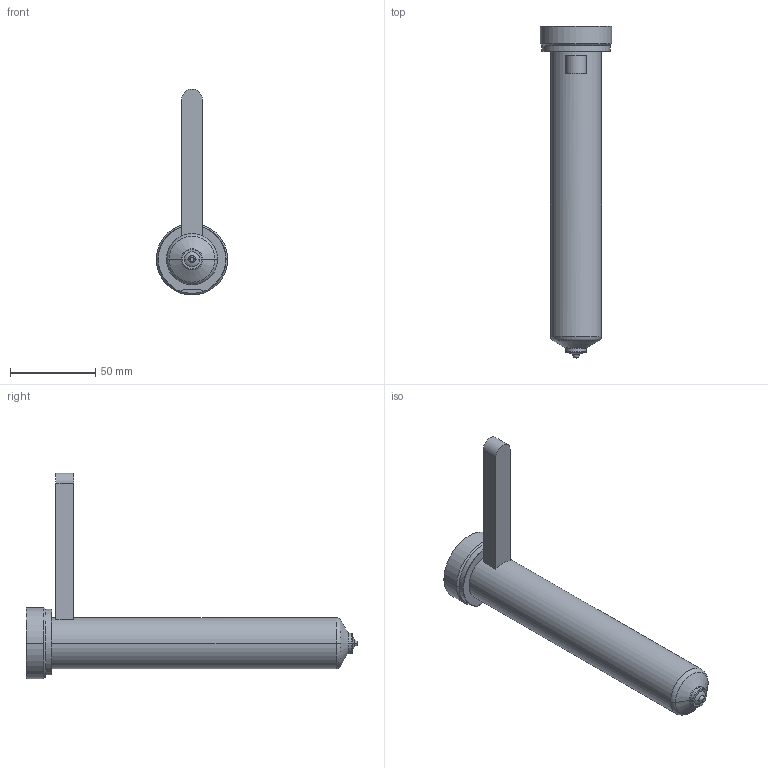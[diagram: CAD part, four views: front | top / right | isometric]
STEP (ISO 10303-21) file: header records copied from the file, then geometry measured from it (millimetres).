
FILE_DESCRIPTION((''),'2;1');
FILE_NAME('EO08_VG-BL_STD_180_COT','2024-02-19T13:06:07',('sundharh'),(''),'CREO PARAMETRIC BY PTC INC, 2023154','CREO PARAMETRIC BY PTC INC, 2023154','');
FILE_SCHEMA(('CONFIG_CONTROL_DESIGN'));
Length unit declared in the file: millimetre
Products named in the file (1): EO08_VG-BL_STD_180_COT
Bounding box: 42 x 195 x 121 mm (x, y, z)
Volume: 152477.5 mm3; surface area: 24509.5 mm2
Topology: 1 solids, 1 shells, 38 faces, 81 edges, 48 vertices
Faces by surface type: cylinder 11, plane 10, torus 9, cone 6, sphere 2
Entity records: 1135 total; most frequent: CARTESIAN_POINT 247, DIRECTION 199, ORIENTED_EDGE 162, AXIS2_PLACEMENT_3D 86, EDGE_CURVE 81, VERTEX_POINT 48, CIRCLE 48, EDGE_LOOP 41
